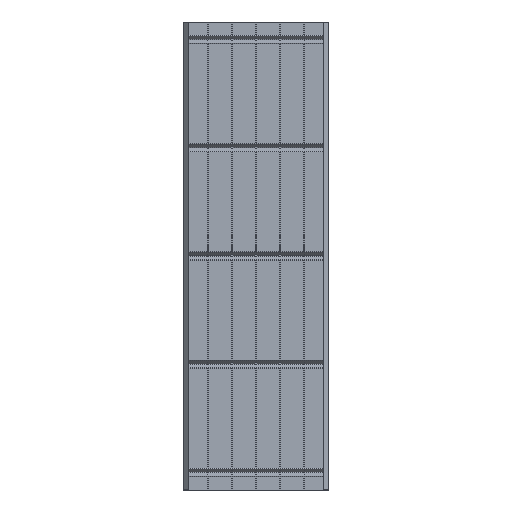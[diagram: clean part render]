
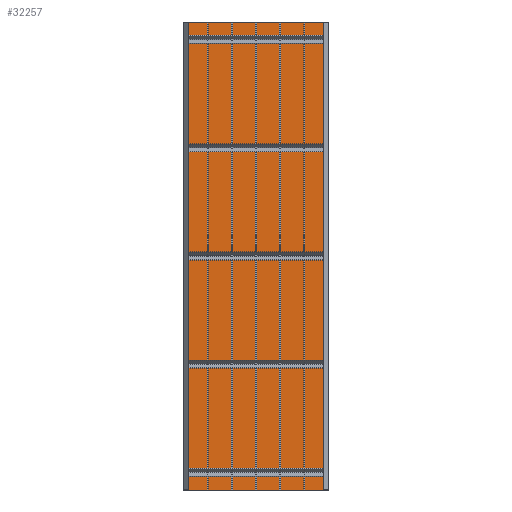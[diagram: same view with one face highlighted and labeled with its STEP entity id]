
A CAD part, front view. The second image highlights one B-rep face of the part: STEP entity #32257.
In plain terms, the highlighted planar face has unit normal (0, -1, 0).
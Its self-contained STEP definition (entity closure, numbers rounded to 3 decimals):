
#806 = CARTESIAN_POINT ( 'NONE',  ( -457.2, -68.75, 20. ) ) ;
#1080 = FACE_OUTER_BOUND ( 'NONE', #37782, .T. ) ;
#3753 = DIRECTION ( 'NONE',  ( 0., 0., 1. ) ) ;
#7197 = VERTEX_POINT ( 'NONE', #8826 ) ;
#8826 = CARTESIAN_POINT ( 'NONE',  ( 457.2, -68.75, 3010. ) ) ;
#9216 = EDGE_CURVE ( 'NONE', #18020, #7197, #25087, .T. ) ;
#10023 = CARTESIAN_POINT ( 'NONE',  ( -457.2, -68.75, 20. ) ) ;
#10348 = EDGE_CURVE ( 'NONE', #54205, #18020, #33127, .T. ) ;
#10608 = CARTESIAN_POINT ( 'NONE',  ( -457.2, -68.75, 20. ) ) ;
#11978 = VECTOR ( 'NONE', #50507, 1000. ) ;
#13262 = EDGE_CURVE ( 'NONE', #43361, #7197, #40347, .T. ) ;
#16353 = ORIENTED_EDGE ( 'NONE', *, *, #13262, .F. ) ;
#18020 = VERTEX_POINT ( 'NONE', #49786 ) ;
#18394 = ORIENTED_EDGE ( 'NONE', *, *, #53766, .F. ) ;
#20069 = AXIS2_PLACEMENT_3D ( 'NONE', #806, #53668, #54523 ) ;
#23548 = PLANE ( 'NONE',  #20069 ) ;
#25087 = LINE ( 'NONE', #34613, #53971 ) ;
#32257 = ADVANCED_FACE ( 'NONE', ( #1080 ), #23548, .T. ) ;
#32771 = LINE ( 'NONE', #47534, #46821 ) ;
#33127 = LINE ( 'NONE', #10608, #11978 ) ;
#34613 = CARTESIAN_POINT ( 'NONE',  ( 457.2, -68.75, 20. ) ) ;
#37782 = EDGE_LOOP ( 'NONE', ( #52252, #16353, #18394, #53239 ) ) ;
#38228 = CARTESIAN_POINT ( 'NONE',  ( -457.2, -68.75, 3010. ) ) ;
#40061 = DIRECTION ( 'NONE',  ( 1., 0., 0. ) ) ;
#40347 = LINE ( 'NONE', #49039, #50032 ) ;
#43361 = VERTEX_POINT ( 'NONE', #38228 ) ;
#46821 = VECTOR ( 'NONE', #56510, 1000. ) ;
#47534 = CARTESIAN_POINT ( 'NONE',  ( -457.2, -68.75, 20. ) ) ;
#49039 = CARTESIAN_POINT ( 'NONE',  ( -457.2, -68.75, 3010. ) ) ;
#49786 = CARTESIAN_POINT ( 'NONE',  ( 457.2, -68.75, 20. ) ) ;
#50032 = VECTOR ( 'NONE', #40061, 1000. ) ;
#50507 = DIRECTION ( 'NONE',  ( 1., 0., 0. ) ) ;
#52252 = ORIENTED_EDGE ( 'NONE', *, *, #9216, .T. ) ;
#53239 = ORIENTED_EDGE ( 'NONE', *, *, #10348, .T. ) ;
#53668 = DIRECTION ( 'NONE',  ( 0., -1., 0. ) ) ;
#53766 = EDGE_CURVE ( 'NONE', #54205, #43361, #32771, .T. ) ;
#53971 = VECTOR ( 'NONE', #3753, 1000. ) ;
#54205 = VERTEX_POINT ( 'NONE', #10023 ) ;
#54523 = DIRECTION ( 'NONE',  ( 0., 0., -1. ) ) ;
#56510 = DIRECTION ( 'NONE',  ( 0., 0., 1. ) ) ;
